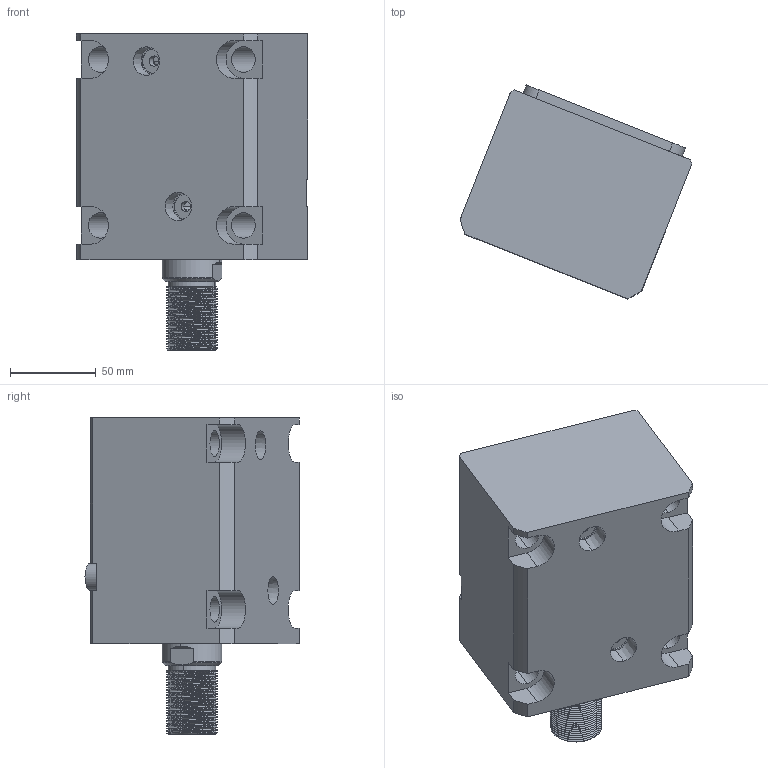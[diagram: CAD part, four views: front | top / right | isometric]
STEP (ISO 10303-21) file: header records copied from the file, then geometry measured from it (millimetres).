
FILE_DESCRIPTION (( 'STEP AP214' ), '1' );
FILE_NAME ('chtb-la63x65w_asm.STEP', '2018-05-17T03:09:11', ( 'Windows' ), ( 'Microsoft' ), 'SwSTEP 2.0', 'SolidWorks 2015', '' );
FILE_SCHEMA (( 'AUTOMOTIVE_DESIGN' ));
Length unit declared in the file: millimetre
Products named in the file (5): CHTB-LA63X65NBT; CHTB-LA63PJ; CHTB63X65WHSG; CHTB-63QG; chtb-la63x65w_asm
Assembly tree (4 placements, depth 2):
  chtb-la63x65w_asm
    CHTB-63QG
    CHTB63X65WHSG
    CHTB-LA63PJ
    CHTB-LA63X65NBT
Bounding box: 135.28 x 125.13 x 185 mm (x, y, z)
Volume: 1157523.5 mm3; surface area: 167733 mm2
Topology: 4 solids, 4 shells, 228 faces, 670 edges, 457 vertices
Faces by surface type: cylinder 147, plane 48, bspline 14, cone 13, torus 6
Entity records: 22769 total; most frequent: CARTESIAN_POINT 17126, ORIENTED_EDGE 1332, DIRECTION 940, EDGE_CURVE 666, VERTEX_POINT 457, AXIS2_PLACEMENT_3D 350, EDGE_LOOP 253, VECTOR 240
